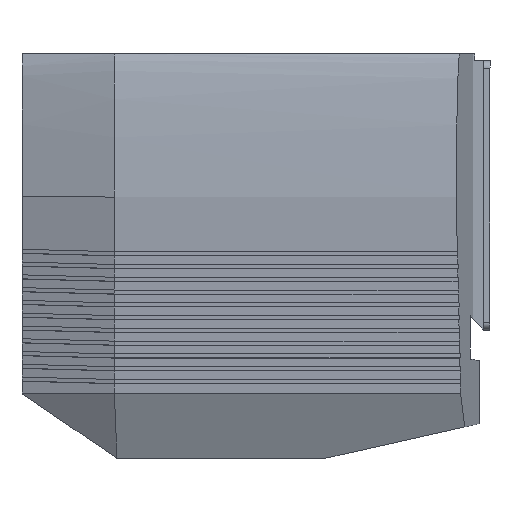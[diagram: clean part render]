
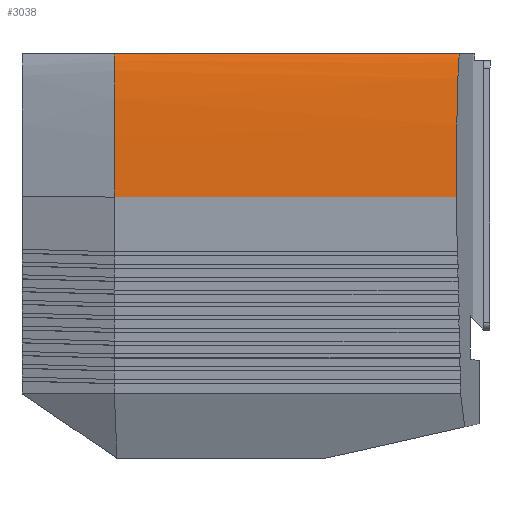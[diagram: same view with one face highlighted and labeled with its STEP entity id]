
A CAD part, left-side view. The second image highlights one B-rep face of the part: STEP entity #3038.
In plain terms, the highlighted free-form (B-spline) face has degree [3, 1] with [7, 2] control points.
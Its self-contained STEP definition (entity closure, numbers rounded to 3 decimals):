
#346 = CARTESIAN_POINT ( 'NONE',  ( -32.151, 134.461, 59.828 ) ) ;
#347 = CARTESIAN_POINT ( 'NONE',  ( -32.117, 134.461, 59.91 ) ) ;
#348 = CARTESIAN_POINT ( 'NONE',  ( -32.086, 134.461, 59.98 ) ) ;
#349 = CARTESIAN_POINT ( 'NONE',  ( -32.078, 134.461, 60. ) ) ;
#350 = LINE ( 'NONE', #351, #945 ) ;
#351 = CARTESIAN_POINT ( 'NONE',  ( -36.77, 1.201, 86.524 ) ) ;
#352 = DIRECTION ( 'NONE',  ( 0., 0., -1. ) ) ;
#355 = CARTESIAN_POINT ( 'NONE',  ( -32.868, 0.155, 57.79 ) ) ;
#356 = CARTESIAN_POINT ( 'NONE',  ( -33.403, 0.299, 55.521 ) ) ;
#357 = CARTESIAN_POINT ( 'NONE',  ( -33.625, 0.358, 54.376 ) ) ;
#358 = CARTESIAN_POINT ( 'NONE',  ( -34.014, 0.462, 52.073 ) ) ;
#359 = CARTESIAN_POINT ( 'NONE',  ( -34.179, 0.506, 50.915 ) ) ;
#360 = CARTESIAN_POINT ( 'NONE',  ( -34.477, 0.586, 48.59 ) ) ;
#361 = CARTESIAN_POINT ( 'NONE',  ( -34.611, 0.622, 47.426 ) ) ;
#362 = CARTESIAN_POINT ( 'NONE',  ( -34.982, 0.722, 43.933 ) ) ;
#363 = CARTESIAN_POINT ( 'NONE',  ( -35.183, 0.776, 41.6 ) ) ;
#364 = CARTESIAN_POINT ( 'NONE',  ( -35.534, 0.87, 36.93 ) ) ;
#365 = CARTESIAN_POINT ( 'NONE',  ( -35.684, 0.91, 34.593 ) ) ;
#366 = CARTESIAN_POINT ( 'NONE',  ( -36.076, 1.015, 27.577 ) ) ;
#367 = CARTESIAN_POINT ( 'NONE',  ( -36.26, 1.064, 22.893 ) ) ;
#368 = CARTESIAN_POINT ( 'NONE',  ( -36.551, 1.142, 13.526 ) ) ;
#369 = CARTESIAN_POINT ( 'NONE',  ( -36.659, 1.171, 8.841 ) ) ;
#370 = CARTESIAN_POINT ( 'NONE',  ( -36.77, 1.201, 4.156 ) ) ;
#506 = EDGE_LOOP ( 'NONE', ( #645, #646, #647, #648, #649 ) ) ;
#645 = ORIENTED_EDGE ( 'NONE', *, *, #4213, .T. ) ;
#646 = ORIENTED_EDGE ( 'NONE', *, *, #4233, .F. ) ;
#647 = ORIENTED_EDGE ( 'NONE', *, *, #4228, .F. ) ;
#648 = ORIENTED_EDGE ( 'NONE', *, *, #4234, .F. ) ;
#649 = ORIENTED_EDGE ( 'NONE', *, *, #4235, .F. ) ;
#817 = VERTEX_POINT ( 'NONE', #4047 ) ;
#917 = VECTOR ( 'NONE', #2282, 1000. ) ;
#939 = VECTOR ( 'NONE', #2329, 1000. ) ;
#945 = VECTOR ( 'NONE', #352, 1000. ) ;
#2065 = CARTESIAN_POINT ( 'NONE',  ( -32.078, -0.056, 60. ) ) ;
#2068 = CARTESIAN_POINT ( 'NONE',  ( -32.078, 134.461, 60. ) ) ;
#2069 = CARTESIAN_POINT ( 'NONE',  ( -36.77, 134.461, 4.156 ) ) ;
#2073 = CARTESIAN_POINT ( 'NONE',  ( -36.77, 1.201, 4.156 ) ) ;
#2280 = LINE ( 'NONE', #2281, #917 ) ;
#2281 = CARTESIAN_POINT ( 'NONE',  ( -32.078, -64.08, 60. ) ) ;
#2282 = DIRECTION ( 'NONE',  ( 0., 1., 0. ) ) ;
#2317 = CARTESIAN_POINT ( 'NONE',  ( -36.67, 134.461, 8.419 ) ) ;
#2326 = LINE ( 'NONE', #2328, #939 ) ;
#2327 = CARTESIAN_POINT ( 'NONE',  ( -36.77, 134.461, 4.156 ) ) ;
#2328 = CARTESIAN_POINT ( 'NONE',  ( -36.77, -111.406, 4.156 ) ) ;
#2329 = DIRECTION ( 'NONE',  ( 0., 1., 0. ) ) ;
#2341 = CARTESIAN_POINT ( 'NONE',  ( -32.549, 0.07, 58.913 ) ) ;
#2342 = CARTESIAN_POINT ( 'NONE',  ( -32.078, -0.056, 60. ) ) ;
#2343 = CARTESIAN_POINT ( 'NONE',  ( -36.571, 134.461, 12.697 ) ) ;
#2344 = CARTESIAN_POINT ( 'NONE',  ( -36.285, 134.461, 22.281 ) ) ;
#2345 = CARTESIAN_POINT ( 'NONE',  ( -36.087, 134.461, 27.587 ) ) ;
#2346 = CARTESIAN_POINT ( 'NONE',  ( -35.621, 134.461, 35.608 ) ) ;
#2347 = CARTESIAN_POINT ( 'NONE',  ( -35.443, 134.461, 38.282 ) ) ;
#2348 = CARTESIAN_POINT ( 'NONE',  ( -35.114, 134.461, 42.349 ) ) ;
#2349 = CARTESIAN_POINT ( 'NONE',  ( -34.992, 134.461, 43.714 ) ) ;
#2350 = CARTESIAN_POINT ( 'NONE',  ( -34.718, 134.461, 46.463 ) ) ;
#2351 = CARTESIAN_POINT ( 'NONE',  ( -34.567, 134.461, 47.842 ) ) ;
#2352 = CARTESIAN_POINT ( 'NONE',  ( -34.305, 134.461, 49.941 ) ) ;
#2353 = CARTESIAN_POINT ( 'NONE',  ( -34.211, 134.461, 50.659 ) ) ;
#2354 = CARTESIAN_POINT ( 'NONE',  ( -33.998, 134.461, 52.132 ) ) ;
#2355 = CARTESIAN_POINT ( 'NONE',  ( -33.88, 134.461, 52.888 ) ) ;
#2356 = CARTESIAN_POINT ( 'NONE',  ( -33.675, 134.461, 54.053 ) ) ;
#2357 = CARTESIAN_POINT ( 'NONE',  ( -33.603, 134.461, 54.446 ) ) ;
#2358 = CARTESIAN_POINT ( 'NONE',  ( -33.446, 134.461, 55.242 ) ) ;
#2359 = CARTESIAN_POINT ( 'NONE',  ( -33.363, 134.461, 55.647 ) ) ;
#2360 = CARTESIAN_POINT ( 'NONE',  ( -33.228, 134.461, 56.255 ) ) ;
#2361 = CARTESIAN_POINT ( 'NONE',  ( -33.181, 134.461, 56.463 ) ) ;
#2362 = CARTESIAN_POINT ( 'NONE',  ( -33.074, 134.461, 56.916 ) ) ;
#2363 = CARTESIAN_POINT ( 'NONE',  ( -33.015, 134.461, 57.157 ) ) ;
#2364 = CARTESIAN_POINT ( 'NONE',  ( -32.874, 134.461, 57.694 ) ) ;
#2365 = CARTESIAN_POINT ( 'NONE',  ( -32.796, 134.461, 57.982 ) ) ;
#2366 = CARTESIAN_POINT ( 'NONE',  ( -32.63, 134.461, 58.516 ) ) ;
#2367 = CARTESIAN_POINT ( 'NONE',  ( -32.57, 134.461, 58.703 ) ) ;
#2368 = CARTESIAN_POINT ( 'NONE',  ( -32.455, 134.461, 59.037 ) ) ;
#2369 = CARTESIAN_POINT ( 'NONE',  ( -32.413, 134.461, 59.155 ) ) ;
#2370 = CARTESIAN_POINT ( 'NONE',  ( -32.315, 134.461, 59.418 ) ) ;
#2371 = CARTESIAN_POINT ( 'NONE',  ( -32.257, 134.461, 59.568 ) ) ;
#2788 = CARTESIAN_POINT ( 'NONE',  ( -32.078, 134.461, 60. ) ) ;
#2796 = FACE_OUTER_BOUND ( 'NONE', #506, .T. ) ;
#2797 = CARTESIAN_POINT ( 'NONE',  ( -32.078, -0.864, 60. ) ) ;
#2799 = CARTESIAN_POINT ( 'NONE',  ( -32.608, -0.864, 58.777 ) ) ;
#2800 = CARTESIAN_POINT ( 'NONE',  ( -32.608, 134.461, 58.777 ) ) ;
#2801 = CARTESIAN_POINT ( 'NONE',  ( -33.585, -0.864, 55.115 ) ) ;
#2802 = CARTESIAN_POINT ( 'NONE',  ( -33.585, 134.461, 55.115 ) ) ;
#2803 = CARTESIAN_POINT ( 'NONE',  ( -34.648, -0.864, 47.841 ) ) ;
#2804 = CARTESIAN_POINT ( 'NONE',  ( -34.648, 134.461, 47.841 ) ) ;
#2805 = CARTESIAN_POINT ( 'NONE',  ( -36.169, -0.864, 30.502 ) ) ;
#2806 = CARTESIAN_POINT ( 'NONE',  ( -36.169, 134.461, 30.502 ) ) ;
#2807 = CARTESIAN_POINT ( 'NONE',  ( -36.501, -0.864, 15.537 ) ) ;
#2808 = CARTESIAN_POINT ( 'NONE',  ( -36.501, 134.461, 15.537 ) ) ;
#2809 = CARTESIAN_POINT ( 'NONE',  ( -36.77, -0.864, 4.156 ) ) ;
#2810 = CARTESIAN_POINT ( 'NONE',  ( -36.77, 134.461, 4.156 ) ) ;
#2813 = CARTESIAN_POINT ( 'NONE',  ( -32.172, 134.461, 59.776 ) ) ;
#3038 = ADVANCED_FACE ( 'NONE', ( #2796 ), #3081, .T. ) ;
#3081 = B_SPLINE_SURFACE_WITH_KNOTS ( 'NONE', 3, 1, ( 
 ( #2797, #2788 ),
 ( #2799, #2800 ),
 ( #2801, #2802 ),
 ( #2803, #2804 ),
 ( #2805, #2806 ),
 ( #2807, #2808 ),
 ( #2809, #2810 ) ),
 .UNSPECIFIED., .F., .F., .F.,
 ( 4, 1, 1, 1, 4 ),
 ( 2, 2 ),
 ( 0., 0.071, 0.202, 0.392, 1. ),
 ( 0., 1. ),
 .UNSPECIFIED. ) ;
#3163 = B_SPLINE_CURVE_WITH_KNOTS ( 'NONE', 3,
 ( #2327, #2317, #2343, #2344, #2345, #2346, #2347, #2348, #2349, #2350, #2351, #2352, #2353, #2354, #2355, #2356, #2357, #2358, #2359, #2360, #2361, #2362, #2363, #2364, #2365, #2366, #2367, #2368, #2369, #2370, #2371, #2813, #346, #347, #348, #349 ),
 .UNSPECIFIED., .F., .F.,
 ( 4, 2, 2, 2, 2, 2, 2, 2, 2, 2, 2, 2, 2, 2, 2, 2, 2, 4 ),
 ( 0., 0.246, 0.547, 0.698, 0.773, 0.848, 0.886, 0.924, 0.942, 0.961, 0.971, 0.98, 0.989, 0.994, 0.997, 0.999, 0.999, 1. ),
 .UNSPECIFIED. ) ;
#3888 = VERTEX_POINT ( 'NONE', #2065 ) ;
#3893 = VERTEX_POINT ( 'NONE', #2068 ) ;
#3895 = VERTEX_POINT ( 'NONE', #2069 ) ;
#3896 = VERTEX_POINT ( 'NONE', #2073 ) ;
#4047 = CARTESIAN_POINT ( 'NONE',  ( -36.77, 1.201, 4.156 ) ) ;
#4213 = EDGE_CURVE ( 'NONE', #3888, #3893, #2280, .T. ) ;
#4228 = EDGE_CURVE ( 'NONE', #817, #3895, #2326, .T. ) ;
#4233 = EDGE_CURVE ( 'NONE', #3895, #3893, #3163, .T. ) ;
#4234 = EDGE_CURVE ( 'NONE', #3896, #817, #350, .T. ) ;
#4235 = EDGE_CURVE ( 'NONE', #3888, #3896, #4477, .T. ) ;
#4477 = B_SPLINE_CURVE_WITH_KNOTS ( 'NONE', 3,
 ( #2342, #2341, #355, #356, #357, #358, #359, #360, #361, #362, #363, #364, #365, #366, #367, #368, #369, #370 ),
 .UNSPECIFIED., .F., .F.,
 ( 4, 2, 2, 2, 2, 2, 2, 2, 4 ),
 ( 0., 0.004, 0.007, 0.011, 0.014, 0.021, 0.028, 0.042, 0.056 ),
 .UNSPECIFIED. ) ;
